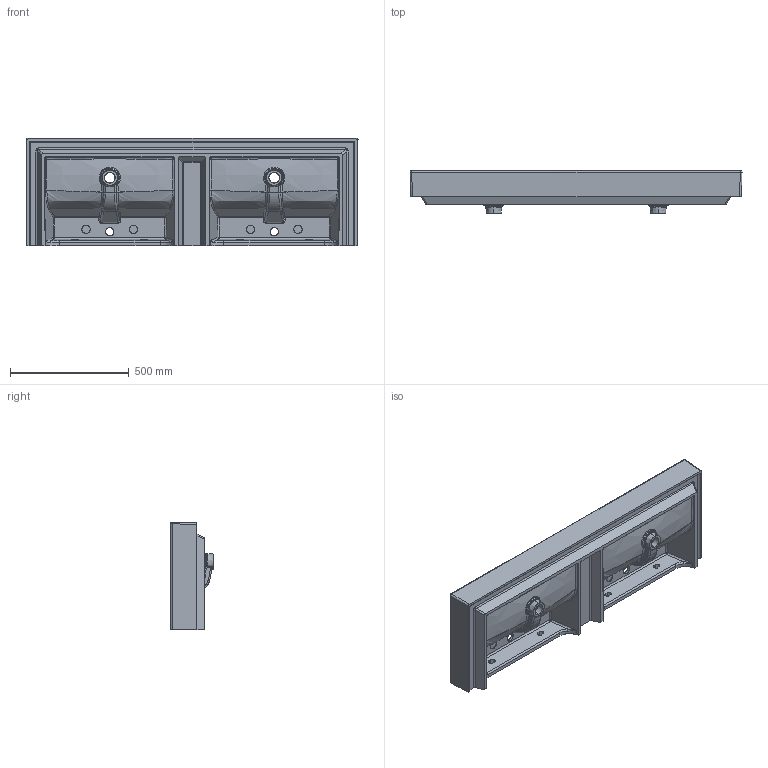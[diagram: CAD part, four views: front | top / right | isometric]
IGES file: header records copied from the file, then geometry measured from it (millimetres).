
Start section: SolidWorks IGES file using analytic representation for surfaces
Global section: file name: \\vmware-host\Shared Folders\Documenti\LAVORO\TECLA\TECLA 2019\VELCA\new h110\140DV\VELCA140DV.IGS; native system: SolidWorks 2017; preprocessor: SolidWorks 2017; author: silvia; date: 190419.150149; units: millimetre
Bounding box: 1399.5 x 180 x 454.75 mm (x, y, z)
Surface area: 2201097.2 mm2 (no closed solid volume)
Topology: 0 solids, 0 shells, 348 faces, 5070 edges, 5058 vertices
Faces by surface type: bspline 224, revolution 124
